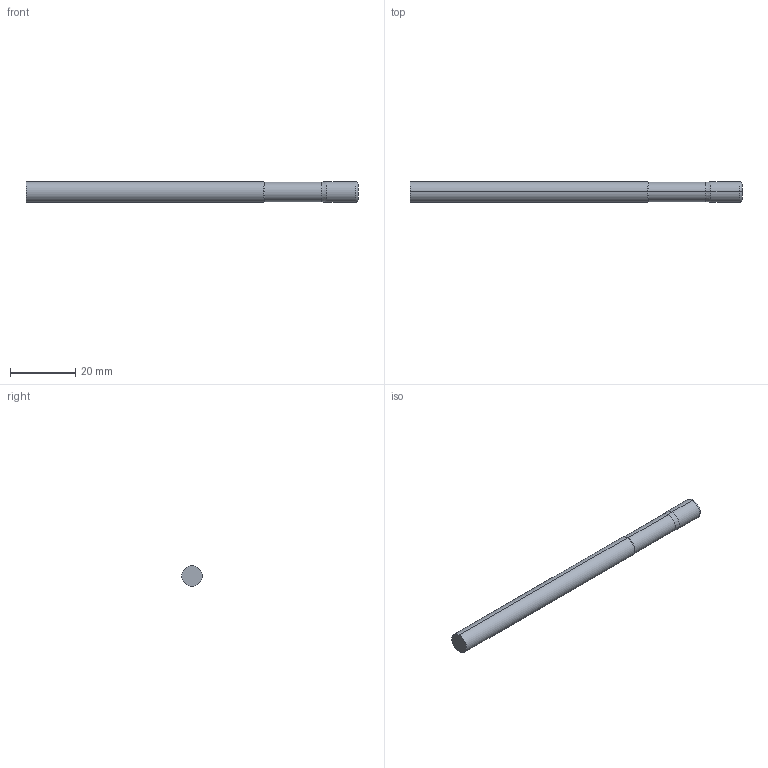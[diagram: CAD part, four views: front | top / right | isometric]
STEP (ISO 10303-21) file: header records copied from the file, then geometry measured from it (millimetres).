
FILE_DESCRIPTION (( 'STEP AP214' ), '1' );
FILE_NAME ('SSIRNM50250-030.STEP', '2025-05-28T13:25:35', ( '' ), ( '' ), 'SwSTEP 2.0', 'SolidWorks 2023', '' );
FILE_SCHEMA (( 'AUTOMOTIVE_DESIGN' ));
Length unit declared in the file: inch
Products named in the file (3): SSI5 Imperial LOC ONLY_SSIRNM50250-030; SSI5 Imperial SHANK ONLY_SSIRNM50250-030; SSIRNM50250-030
Assembly tree (2 placements, depth 2):
  SSIRNM50250-030
    SSI5 Imperial LOC ONLY_SSIRNM50250-030
    SSI5 Imperial SHANK ONLY_SSIRNM50250-030
Bounding box: 101.6 x 6.35 x 6.35 mm (x, y, z)
Volume: 3147.2 mm3; surface area: 2125.9 mm2
Topology: 2 solids, 2 shells, 16 faces, 28 edges, 16 vertices
Faces by surface type: cylinder 6, plane 4, cone 4, torus 2
Entity records: 562 total; most frequent: DIRECTION 88, CARTESIAN_POINT 65, ORIENTED_EDGE 56, AXIS2_PLACEMENT_3D 39, EDGE_CURVE 28, CIRCLE 18, FACE_OUTER_BOUND 16, ADVANCED_FACE 16
